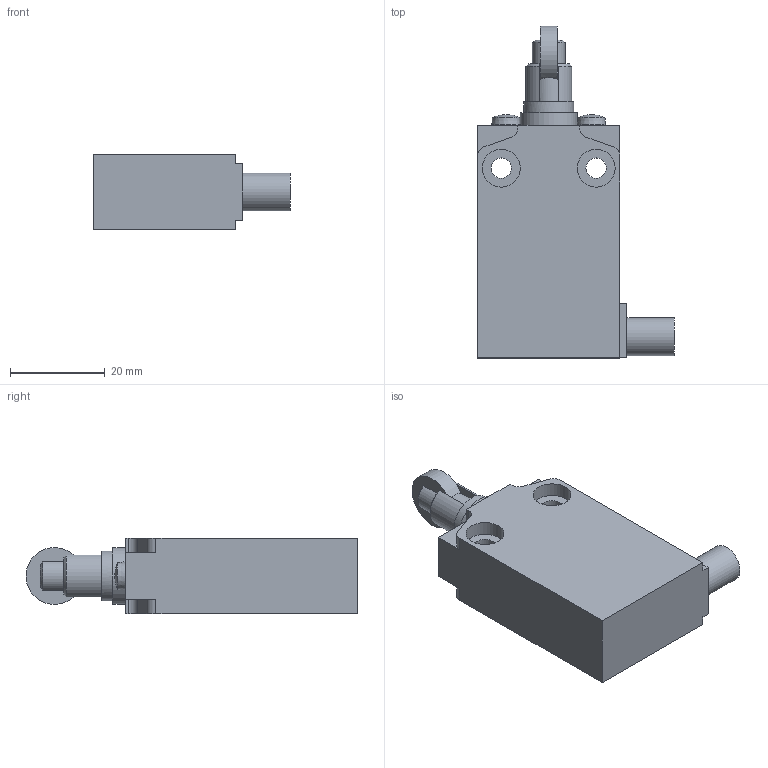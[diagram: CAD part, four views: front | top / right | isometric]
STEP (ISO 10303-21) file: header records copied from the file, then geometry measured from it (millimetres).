
FILE_DESCRIPTION((''),'2;1');
FILE_NAME('C:\Workarea\Disegni\Comepi\Catalogo\Stp\Finecorsa\EM1G14.iam.step','2011-07-22T16:16:34',(''),(''),'Autodesk Inventor 2012','Autodesk Inventor 2012','');
FILE_SCHEMA(('AUTOMOTIVE_DESIGN { 1 0 10303 214 1 1 1 1 }'));
Length unit declared in the file: millimetre
Products named in the file (5): EM1G14; EM1; G12; G12_1; G12_2
Assembly tree (4 placements, depth 3):
  EM1G14
    EM1
    G12
      G12_1
      G12_2
Bounding box: 41.5 x 69.98 x 16 mm (x, y, z)
Volume: 24464.6 mm3; surface area: 7701.8 mm2
Topology: 3 solids, 3 shells, 73 faces, 176 edges, 117 vertices
Faces by surface type: plane 41, cylinder 22, cone 6, torus 2, sphere 2
Full cylindrical faces by diameter (mm): 4.3 x2, 6.869 x2, 8 x5, 10.5 x1, 12 x1
Entity records: 2195 total; most frequent: CARTESIAN_POINT 389, DIRECTION 370, ORIENTED_EDGE 316, EDGE_CURVE 158, AXIS2_PLACEMENT_3D 140, VERTEX_POINT 114, EDGE_LOOP 102, VECTOR 90
